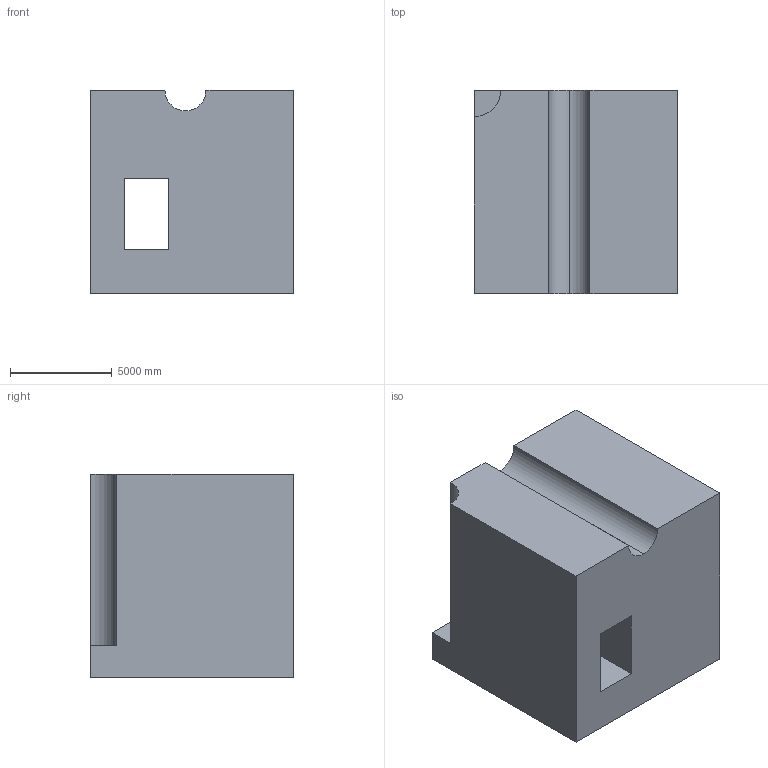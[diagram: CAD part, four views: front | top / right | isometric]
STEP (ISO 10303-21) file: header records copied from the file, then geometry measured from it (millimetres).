
FILE_DESCRIPTION (( 'STEP AP203' ), '1' );
FILE_NAME ('1266.STEP', '2022-08-18T13:28:21', ( 'user' ), ( '' ), 'SwSTEP 2.0', 'SolidWorks 2021', '' );
FILE_SCHEMA (( 'CONFIG_CONTROL_DESIGN' ));
Length unit declared in the file: centimetre
Products named in the file (1): 1266
Bounding box: 10000 x 10000 x 10000 mm (x, y, z)
Volume: 897132545730.3 mm3; surface area: 701735879 mm2
Topology: 1 solids, 1 shells, 15 faces, 39 edges, 26 vertices
Faces by surface type: plane 12, cylinder 3
Entity records: 540 total; most frequent: CARTESIAN_POINT 81, ORIENTED_EDGE 78, DIRECTION 77, EDGE_CURVE 39, VECTOR 33, LINE 33, VERTEX_POINT 26, AXIS2_PLACEMENT_3D 22
